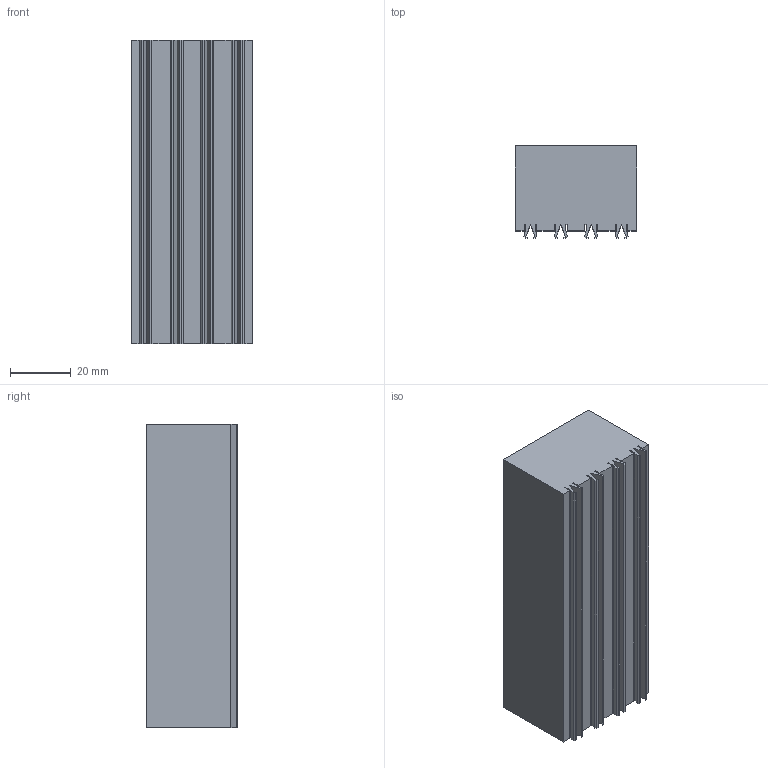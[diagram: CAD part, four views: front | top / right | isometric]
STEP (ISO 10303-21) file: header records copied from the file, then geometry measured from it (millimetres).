
FILE_DESCRIPTION(/* description */ (''),/* implementation_level */ '2;1');
FILE_NAME(/* name */ 'C:/Users/priba/Documents/Temp/Backup/Brick Battery Holder v4.step',/* time_stamp */ '2019-07-02T17:29:45+02:00',/* author */ (''),/* organization */ (''),/* preprocessor_version */ 'ST-DEVELOPER v18',/* originating_system */ 'Autodesk Translation Framework v8.2.0.1029',/* authorisation */ '');
FILE_SCHEMA (('AUTOMOTIVE_DESIGN { 1 0 10303 214 3 1 1 }'));
Length unit declared in the file: millimetre
Products named in the file (1): Brick Battery Holder
Bounding box: 40 x 30.31 x 100 mm (x, y, z)
Volume: 9398 mm3; surface area: 36364.6 mm2
Topology: 1 solids, 1 shells, 123 faces, 360 edges, 240 vertices
Faces by surface type: plane 123
Entity records: 4016 total; most frequent: CARTESIAN_POINT 724, ORIENTED_EDGE 720, DIRECTION 608, LINE 360, VECTOR 360, EDGE_CURVE 360, VERTEX_POINT 240, EDGE_LOOP 124
